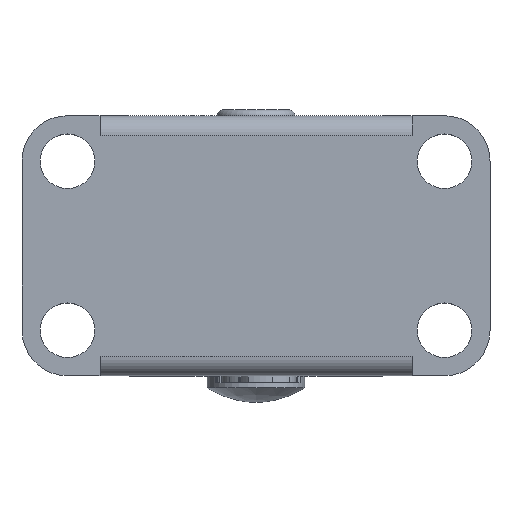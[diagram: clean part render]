
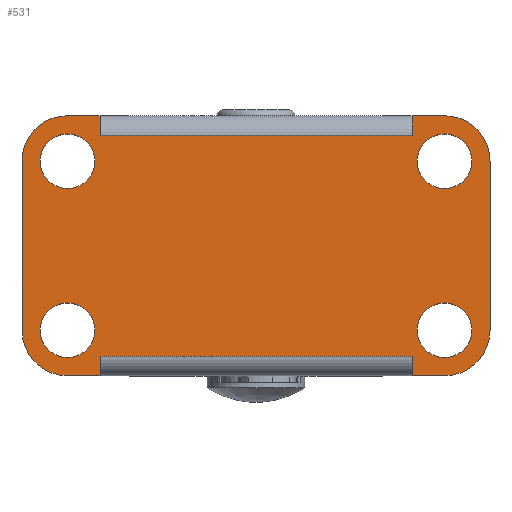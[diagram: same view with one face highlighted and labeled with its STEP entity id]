
A CAD part, top view. The second image highlights one B-rep face of the part: STEP entity #531.
In plain terms, the highlighted planar face has unit normal (0, 0, 1).
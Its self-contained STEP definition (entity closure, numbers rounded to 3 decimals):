
#531=ADVANCED_FACE('',(#975,#976,#977,#978,#979),#779,.F.);
#779=PLANE('',#4363);
#975=FACE_BOUND('',#1078,.T.);
#976=FACE_BOUND('',#1079,.T.);
#977=FACE_BOUND('',#1080,.T.);
#978=FACE_BOUND('',#1081,.T.);
#979=FACE_BOUND('',#1082,.T.);
#1078=EDGE_LOOP('',(#1632,#1633,#1634,#1635,#1636,#1637,#1638,#1639,#1640,
#1641,#1642,#1643,#1644,#1645,#1646,#1647));
#1079=EDGE_LOOP('',(#1648));
#1080=EDGE_LOOP('',(#1649));
#1081=EDGE_LOOP('',(#1650));
#1082=EDGE_LOOP('',(#1651));
#1402=CIRCLE('',#4355,3.5);
#1403=CIRCLE('',#4356,3.5);
#1404=CIRCLE('',#4357,3.5);
#1405=CIRCLE('',#4358,3.5);
#1406=CIRCLE('',#4359,2.1);
#1407=CIRCLE('',#4360,2.1);
#1408=CIRCLE('',#4361,2.1);
#1409=CIRCLE('',#4362,2.1);
#1632=ORIENTED_EDGE('',*,*,#3288,.F.);
#1633=ORIENTED_EDGE('',*,*,#3289,.T.);
#1634=ORIENTED_EDGE('',*,*,#3290,.F.);
#1635=ORIENTED_EDGE('',*,*,#3291,.F.);
#1636=ORIENTED_EDGE('',*,*,#3292,.F.);
#1637=ORIENTED_EDGE('',*,*,#3293,.F.);
#1638=ORIENTED_EDGE('',*,*,#3294,.F.);
#1639=ORIENTED_EDGE('',*,*,#3295,.T.);
#1640=ORIENTED_EDGE('',*,*,#3296,.T.);
#1641=ORIENTED_EDGE('',*,*,#3297,.F.);
#1642=ORIENTED_EDGE('',*,*,#3298,.F.);
#1643=ORIENTED_EDGE('',*,*,#3299,.F.);
#1644=ORIENTED_EDGE('',*,*,#3300,.F.);
#1645=ORIENTED_EDGE('',*,*,#3301,.F.);
#1646=ORIENTED_EDGE('',*,*,#3302,.F.);
#1647=ORIENTED_EDGE('',*,*,#3303,.F.);
#1648=ORIENTED_EDGE('',*,*,#3304,.F.);
#1649=ORIENTED_EDGE('',*,*,#3305,.F.);
#1650=ORIENTED_EDGE('',*,*,#3306,.F.);
#1651=ORIENTED_EDGE('',*,*,#3307,.F.);
#2866=VERTEX_POINT('',#6271);
#2867=VERTEX_POINT('',#6272);
#2868=VERTEX_POINT('',#6274);
#2869=VERTEX_POINT('',#6276);
#2870=VERTEX_POINT('',#6278);
#2871=VERTEX_POINT('',#6280);
#2872=VERTEX_POINT('',#6282);
#2873=VERTEX_POINT('',#6284);
#2874=VERTEX_POINT('',#6286);
#2875=VERTEX_POINT('',#6288);
#2876=VERTEX_POINT('',#6290);
#2877=VERTEX_POINT('',#6292);
#2878=VERTEX_POINT('',#6294);
#2879=VERTEX_POINT('',#6296);
#2880=VERTEX_POINT('',#6298);
#2881=VERTEX_POINT('',#6300);
#2882=VERTEX_POINT('',#6303);
#2883=VERTEX_POINT('',#6305);
#2884=VERTEX_POINT('',#6307);
#2885=VERTEX_POINT('',#6309);
#3288=EDGE_CURVE('',#2866,#2867,#3776,.T.);
#3289=EDGE_CURVE('',#2866,#2868,#3777,.T.);
#3290=EDGE_CURVE('',#2869,#2868,#3778,.T.);
#3291=EDGE_CURVE('',#2870,#2869,#1402,.T.);
#3292=EDGE_CURVE('',#2871,#2870,#3779,.T.);
#3293=EDGE_CURVE('',#2872,#2871,#1403,.T.);
#3294=EDGE_CURVE('',#2873,#2872,#3780,.T.);
#3295=EDGE_CURVE('',#2873,#2874,#3781,.T.);
#3296=EDGE_CURVE('',#2874,#2875,#3782,.T.);
#3297=EDGE_CURVE('',#2876,#2875,#3783,.T.);
#3298=EDGE_CURVE('',#2877,#2876,#3784,.T.);
#3299=EDGE_CURVE('',#2878,#2877,#1404,.T.);
#3300=EDGE_CURVE('',#2879,#2878,#3785,.T.);
#3301=EDGE_CURVE('',#2880,#2879,#1405,.T.);
#3302=EDGE_CURVE('',#2881,#2880,#3786,.T.);
#3303=EDGE_CURVE('',#2867,#2881,#3787,.T.);
#3304=EDGE_CURVE('',#2882,#2882,#1406,.T.);
#3305=EDGE_CURVE('',#2883,#2883,#1407,.T.);
#3306=EDGE_CURVE('',#2884,#2884,#1408,.T.);
#3307=EDGE_CURVE('',#2885,#2885,#1409,.T.);
#3776=LINE('',#6270,#4060);
#3777=LINE('',#6273,#4061);
#3778=LINE('',#6275,#4062);
#3779=LINE('',#6279,#4063);
#3780=LINE('',#6283,#4064);
#3781=LINE('',#6285,#4065);
#3782=LINE('',#6287,#4066);
#3783=LINE('',#6289,#4067);
#3784=LINE('',#6291,#4068);
#3785=LINE('',#6295,#4069);
#3786=LINE('',#6299,#4070);
#3787=LINE('',#6301,#4071);
#4060=VECTOR('',#4762,1.);
#4061=VECTOR('',#4763,1.);
#4062=VECTOR('',#4764,1.);
#4063=VECTOR('',#4767,1.);
#4064=VECTOR('',#4770,1.);
#4065=VECTOR('',#4771,1.);
#4066=VECTOR('',#4772,1.);
#4067=VECTOR('',#4773,1.);
#4068=VECTOR('',#4774,1.);
#4069=VECTOR('',#4777,1.);
#4070=VECTOR('',#4780,1.);
#4071=VECTOR('',#4781,1.);
#4355=AXIS2_PLACEMENT_3D('',#6277,#4765,#4766);
#4356=AXIS2_PLACEMENT_3D('',#6281,#4768,#4769);
#4357=AXIS2_PLACEMENT_3D('',#6293,#4775,#4776);
#4358=AXIS2_PLACEMENT_3D('',#6297,#4778,#4779);
#4359=AXIS2_PLACEMENT_3D('',#6302,#4782,#4783);
#4360=AXIS2_PLACEMENT_3D('',#6304,#4784,#4785);
#4361=AXIS2_PLACEMENT_3D('',#6306,#4786,#4787);
#4362=AXIS2_PLACEMENT_3D('',#6308,#4788,#4789);
#4363=AXIS2_PLACEMENT_3D('',#6310,#4790,#4791);
#4762=DIRECTION('',(1.,0.,0.));
#4763=DIRECTION('',(0.,1.,0.));
#4764=DIRECTION('',(1.,0.,0.));
#4765=DIRECTION('',(0.,0.,-1.));
#4766=DIRECTION('',(1.,0.,0.));
#4767=DIRECTION('',(0.,1.,0.));
#4768=DIRECTION('',(0.,0.,-1.));
#4769=DIRECTION('',(1.,0.,0.));
#4770=DIRECTION('',(-1.,0.,0.));
#4771=DIRECTION('',(0.,1.,0.));
#4772=DIRECTION('',(1.,0.,0.));
#4773=DIRECTION('',(0.,1.,0.));
#4774=DIRECTION('',(-1.,0.,0.));
#4775=DIRECTION('',(0.,0.,-1.));
#4776=DIRECTION('',(1.,0.,0.));
#4777=DIRECTION('',(0.,-1.,0.));
#4778=DIRECTION('',(0.,0.,-1.));
#4779=DIRECTION('',(1.,0.,0.));
#4780=DIRECTION('',(1.,0.,0.));
#4781=DIRECTION('',(0.,1.,0.));
#4782=DIRECTION('',(0.,0.,1.));
#4783=DIRECTION('',(1.,0.,0.));
#4784=DIRECTION('',(0.,0.,1.));
#4785=DIRECTION('',(1.,0.,0.));
#4786=DIRECTION('',(0.,0.,1.));
#4787=DIRECTION('',(1.,0.,0.));
#4788=DIRECTION('',(0.,0.,1.));
#4789=DIRECTION('',(1.,0.,0.));
#4790=DIRECTION('',(0.,0.,-1.));
#4791=DIRECTION('',(1.,0.,0.));
#6270=CARTESIAN_POINT('',(-12.,8.5,0.));
#6271=CARTESIAN_POINT('',(-12.,8.5,0.));
#6272=CARTESIAN_POINT('',(12.,8.5,0.));
#6273=CARTESIAN_POINT('',(-12.,-6.5,0.));
#6274=CARTESIAN_POINT('',(-12.,10.,0.));
#6275=CARTESIAN_POINT('',(-14.5,10.,0.));
#6276=CARTESIAN_POINT('',(-14.5,10.,0.));
#6277=CARTESIAN_POINT('',(-14.5,6.5,0.));
#6278=CARTESIAN_POINT('',(-18.,6.5,0.));
#6279=CARTESIAN_POINT('',(-18.,-6.5,0.));
#6280=CARTESIAN_POINT('',(-18.,-6.5,0.));
#6281=CARTESIAN_POINT('',(-14.5,-6.5,0.));
#6282=CARTESIAN_POINT('',(-14.5,-10.,0.));
#6283=CARTESIAN_POINT('',(14.5,-10.,0.));
#6284=CARTESIAN_POINT('',(-12.,-10.,0.));
#6285=CARTESIAN_POINT('',(-12.,-6.5,0.));
#6286=CARTESIAN_POINT('',(-12.,-8.5,0.));
#6287=CARTESIAN_POINT('',(-12.,-8.5,0.));
#6288=CARTESIAN_POINT('',(12.,-8.5,0.));
#6289=CARTESIAN_POINT('',(12.,-6.5,0.));
#6290=CARTESIAN_POINT('',(12.,-10.,0.));
#6291=CARTESIAN_POINT('',(14.5,-10.,0.));
#6292=CARTESIAN_POINT('',(14.5,-10.,0.));
#6293=CARTESIAN_POINT('',(14.5,-6.5,0.));
#6294=CARTESIAN_POINT('',(18.,-6.5,0.));
#6295=CARTESIAN_POINT('',(18.,6.5,0.));
#6296=CARTESIAN_POINT('',(18.,6.5,0.));
#6297=CARTESIAN_POINT('',(14.5,6.5,0.));
#6298=CARTESIAN_POINT('',(14.5,10.,0.));
#6299=CARTESIAN_POINT('',(-14.5,10.,0.));
#6300=CARTESIAN_POINT('',(12.,10.,0.));
#6301=CARTESIAN_POINT('',(12.,-6.5,0.));
#6302=CARTESIAN_POINT('',(14.5,6.5,0.));
#6303=CARTESIAN_POINT('',(16.6,6.5,0.));
#6304=CARTESIAN_POINT('',(14.5,-6.5,0.));
#6305=CARTESIAN_POINT('',(16.6,-6.5,0.));
#6306=CARTESIAN_POINT('',(-14.5,-6.5,0.));
#6307=CARTESIAN_POINT('',(-12.4,-6.5,0.));
#6308=CARTESIAN_POINT('',(-14.5,6.5,0.));
#6309=CARTESIAN_POINT('',(-12.4,6.5,0.));
#6310=CARTESIAN_POINT('',(-14.5,-6.5,0.));
